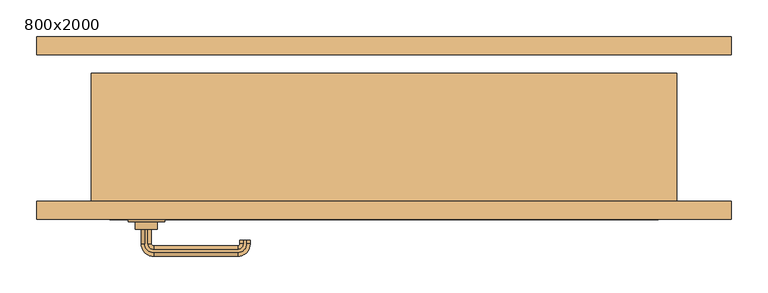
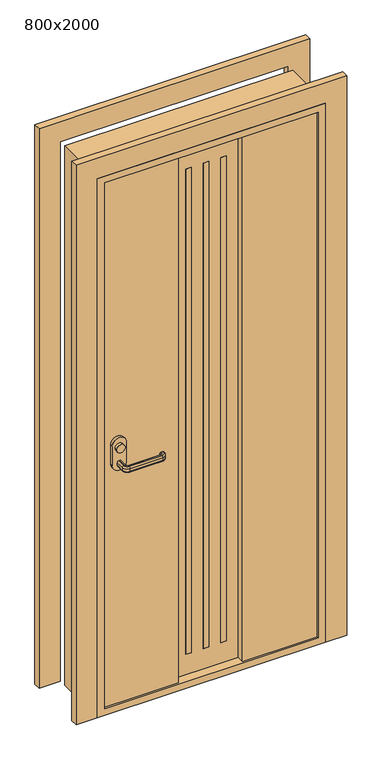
"""IFC4 building model written with IfcOpenShell, lengths in millimetres: door geometry, 片開き3 : 800x2000."""

from ifc_helpers import new_model, si_unit, point, frame, frame_2d, origin, place, context, project, spatial, polyline, circle_curve, ellipse_curve, trimmed, segment, composite_curve, outline, extrude, faceted_brep, source, transform, mapped, element, save
from ifc_brep_helpers import plane_surface, cylinder_surface, revolved_surface, advanced_brep


def door_800x2000_010bfebf(model_context):
    return source(origin(), model_context, "Body", "SolidModel", [
        extrude(outline(composite_curve([segment(trimmed(circle_curve(frame_2d((980.1793562, -325.0)), 15.0), [point((980.1793562, -310.0))], [point((980.1793562, -340.0))], False, "CARTESIAN"), True, "CONTINUOUS"), segment(trimmed(circle_curve(frame_2d((980.1793562, -325.0)), 15.0), [point((980.1793562, -340.0))], [point((980.1793562, -310.0))], False, "CARTESIAN"), True, "CONTINUOUS")], self_intersect=False)), frame((0.0, -138.0, 0.0), z_axis=(0.0, 1.0, 0.0), x_axis=(0.0, 0.0, 1.0)), (0.0, 0.0, 1.0), 10.0),
        extrude(outline(composite_curve([segment(trimmed(circle_curve(frame_2d((980.1793562, -325.0)), 15.0), [point((980.1793562, -340.0))], [point((980.1793562, -310.0))], False, "CARTESIAN"), True, "CONTINUOUS"), segment(trimmed(circle_curve(frame_2d((980.1793562, -325.0)), 15.0), [point((980.1793562, -310.0))], [point((980.1793562, -340.0))], False, "CARTESIAN"), True, "CONTINUOUS")], self_intersect=False)), frame((0.0, -73.0, 0.0), z_axis=(0.0, 1.0, 0.0), x_axis=(0.0, 0.0, 1.0)), (0.0, 0.0, 1.0), 10.0),
        advanced_brep(
        [(-327.0, -128.0, 930.0), (-323.0, -128.0, 930.0), (-318.0, -128.0, 925.0), (-318.0, -128.0, 915.0477623), (-323.0, -128.0, 910.0477623), (-327.0, -128.0, 910.0477623), (-332.0, -128.0, 915.0477623), (-332.0, -128.0, 925.0), (-332.0, -158.0, 925.0), (-327.0, -158.0, 930.0), (-332.0, -158.0, 915.0477623), (-327.0, -158.0, 910.0477623), (-323.0, -158.0, 910.0477623), (-315.0, -166.0, 910.0477623), (-200.0, -166.0, 910.0477623), (-192.0, -158.0, 910.0477623), (-192.0, -153.0, 910.0477623), (-188.0, -153.0, 910.0477623), (-188.0, -158.0, 910.0477623), (-200.0, -170.0, 910.0477623), (-315.0, -170.0, 910.0477623), (-318.0, -158.0, 915.0477623), (-318.0, -158.0, 925.0), (-323.0, -158.0, 930.0), (-315.0, -170.0, 930.0), (-200.0, -170.0, 930.0), (-188.0, -158.0, 930.0), (-188.0, -153.0, 930.0), (-192.0, -153.0, 930.0), (-192.0, -158.0, 930.0), (-200.0, -166.0, 930.0), (-315.0, -166.0, 930.0), (-315.0, -175.0, 925.0), (-315.0, -175.0, 915.0477623), (-315.0, -161.0, 915.0477623), (-315.0, -161.0, 925.0), (-200.0, -175.0, 925.0), (-200.0, -175.0, 915.0477623), (-200.0, -161.0, 915.0477623), (-200.0, -161.0, 925.0), (-183.0, -158.0, 925.0), (-183.0, -158.0, 915.0477623), (-197.0, -158.0, 915.0477623), (-197.0, -158.0, 925.0), (-183.0, -153.0, 925.0), (-183.0, -153.0, 915.0477623), (-197.0, -153.0, 915.0477623), (-197.0, -153.0, 925.0)],
        [
            (0, 1),
            (1, 2, circle_curve(frame((-323.0, -128.0, 925.0), z_axis=(0.0, 1.0, 0.0), x_axis=(-1.0, 0.0, 0.0)), 5.0)),
            (2, 3),
            (3, 4, circle_curve(frame((-323.0, -128.0, 915.0477623), z_axis=(0.0, 1.0, 0.0), x_axis=(-1.0, 0.0, 0.0)), 5.0)),
            (4, 5),
            (5, 6, circle_curve(frame((-327.0, -128.0, 915.0477623), z_axis=(0.0, 1.0, 0.0), x_axis=(-1.0, 0.0, 0.0)), 5.0)),
            (6, 7),
            (7, 0, circle_curve(frame((-327.0, -128.0, 925.0), z_axis=(0.0, 1.0, 0.0), x_axis=(-1.0, 0.0, 0.0)), 5.0)),
            (7, 8),
            (8, 9, circle_curve(frame((-327.0, -158.0, 925.0), z_axis=(0.0, 1.0, 0.0), x_axis=(-1.0, 0.0, 0.0)), 5.0)),
            (9, 0),
            (6, 10),
            (10, 8),
            (5, 11),
            (11, 10, circle_curve(frame((-327.0, -158.0, 915.0477623), z_axis=(0.0, 1.0, 0.0), x_axis=(-1.0, 0.0, 0.0)), 5.0)),
            (4, 12),
            (12, 13, circle_curve(frame((-315.0, -158.0, 910.0477623), z_axis=(0.0, 0.0, 1.0), x_axis=(-1.0, 0.0, 0.0)), 8.0)),
            (13, 14),
            (14, 15, circle_curve(frame((-200.0, -158.0, 910.0477623), z_axis=(0.0, 0.0, 1.0), x_axis=(0.0, -1.0, 0.0)), 8.0)),
            (15, 16),
            (16, 17),
            (17, 18),
            (18, 19, circle_curve(frame((-200.0, -158.0, 910.0477623), z_axis=(0.0, 0.0, -1.0), x_axis=(0.0, -1.0, 0.0)), 12.0)),
            (19, 20),
            (20, 11, circle_curve(frame((-315.0, -158.0, 910.0477623), z_axis=(0.0, 0.0, -1.0), x_axis=(-1.0, 0.0, 0.0)), 12.0)),
            (3, 21),
            (21, 12, circle_curve(frame((-323.0, -158.0, 915.0477623), z_axis=(0.0, 1.0, 0.0), x_axis=(-1.0, 0.0, 0.0)), 5.0)),
            (2, 22),
            (22, 21),
            (1, 23),
            (23, 22, circle_curve(frame((-323.0, -158.0, 925.0), z_axis=(0.0, 1.0, 0.0), x_axis=(-1.0, 0.0, 0.0)), 5.0)),
            (9, 24, circle_curve(frame((-315.0, -158.0, 930.0), z_axis=(0.0, 0.0, 1.0), x_axis=(-1.0, 0.0, 0.0)), 12.0)),
            (24, 25),
            (25, 26, circle_curve(frame((-200.0, -158.0, 930.0), z_axis=(0.0, 0.0, 1.0), x_axis=(0.0, -1.0, 0.0)), 12.0)),
            (26, 27),
            (27, 28),
            (28, 29),
            (29, 30, circle_curve(frame((-200.0, -158.0, 930.0), z_axis=(0.0, 0.0, -1.0), x_axis=(0.0, -1.0, 0.0)), 8.0)),
            (30, 31),
            (31, 23, circle_curve(frame((-315.0, -158.0, 930.0), z_axis=(0.0, 0.0, -1.0), x_axis=(-1.0, 0.0, 0.0)), 8.0)),
            (32, 24, circle_curve(frame((-315.0, -170.0, 925.0), z_axis=(-1.0, 0.0, 0.0), x_axis=(0.0, -1.0, 0.0)), 5.0)),
            (8, 32, circle_curve(frame((-315.0, -158.0, 925.0), z_axis=(0.0, 0.0, 1.0), x_axis=(-1.0, 0.0, 0.0)), 17.0)),
            (33, 32),
            (10, 33, circle_curve(frame((-315.0, -158.0, 915.0477623), z_axis=(0.0, 0.0, 1.0), x_axis=(-1.0, 0.0, 0.0)), 17.0)),
            (20, 33, circle_curve(frame((-315.0, -170.0, 915.0477623), z_axis=(-1.0, 0.0, 0.0), x_axis=(0.0, -1.0, 0.0)), 5.0)),
            (34, 13, circle_curve(frame((-315.0, -166.0, 915.0477623), z_axis=(-1.0, 0.0, 0.0), x_axis=(0.0, -1.0, 0.0)), 5.0)),
            (21, 34, circle_curve(frame((-315.0, -158.0, 915.0477623), z_axis=(0.0, 0.0, 1.0), x_axis=(-1.0, 0.0, 0.0)), 3.0)),
            (35, 34),
            (22, 35, circle_curve(frame((-315.0, -158.0, 925.0), z_axis=(0.0, 0.0, 1.0), x_axis=(-1.0, 0.0, 0.0)), 3.0)),
            (31, 35, circle_curve(frame((-315.0, -166.0, 925.0), z_axis=(-1.0, 0.0, 0.0), x_axis=(0.0, -1.0, 0.0)), 5.0)),
            (32, 36),
            (36, 25, circle_curve(frame((-200.0, -170.0, 925.0), z_axis=(-1.0, 0.0, 0.0), x_axis=(0.0, -1.0, 0.0)), 5.0)),
            (33, 37),
            (37, 36),
            (19, 37, circle_curve(frame((-200.0, -170.0, 915.0477623), z_axis=(-1.0, 0.0, 0.0), x_axis=(0.0, -1.0, 0.0)), 5.0)),
            (34, 38),
            (38, 14, circle_curve(frame((-200.0, -166.0, 915.0477623), z_axis=(-1.0, 0.0, 0.0), x_axis=(0.0, -1.0, 0.0)), 5.0)),
            (35, 39),
            (39, 38),
            (30, 39, circle_curve(frame((-200.0, -166.0, 925.0), z_axis=(-1.0, 0.0, 0.0), x_axis=(0.0, -1.0, 0.0)), 5.0)),
            (40, 26, circle_curve(frame((-188.0, -158.0, 925.0), z_axis=(0.0, -1.0, 0.0), x_axis=(1.0, 0.0, 0.0)), 5.0)),
            (36, 40, circle_curve(frame((-200.0, -158.0, 925.0), z_axis=(0.0, 0.0, 1.0), x_axis=(0.0, -1.0, 0.0)), 17.0)),
            (41, 40),
            (37, 41, circle_curve(frame((-200.0, -158.0, 915.0477623), z_axis=(0.0, 0.0, 1.0), x_axis=(0.0, -1.0, 0.0)), 17.0)),
            (18, 41, circle_curve(frame((-188.0, -158.0, 915.0477623), z_axis=(0.0, -1.0, 0.0), x_axis=(1.0, 0.0, 0.0)), 5.0)),
            (42, 15, circle_curve(frame((-192.0, -158.0, 915.0477623), z_axis=(0.0, -1.0, 0.0), x_axis=(1.0, 0.0, 0.0)), 5.0)),
            (38, 42, circle_curve(frame((-200.0, -158.0, 915.0477623), z_axis=(0.0, 0.0, 1.0), x_axis=(0.0, -1.0, 0.0)), 3.0)),
            (43, 42),
            (39, 43, circle_curve(frame((-200.0, -158.0, 925.0), z_axis=(0.0, 0.0, 1.0), x_axis=(0.0, -1.0, 0.0)), 3.0)),
            (29, 43, circle_curve(frame((-192.0, -158.0, 925.0), z_axis=(0.0, -1.0, 0.0), x_axis=(1.0, 0.0, 0.0)), 5.0)),
            (27, 44, circle_curve(frame((-188.0, -153.0, 925.0), z_axis=(0.0, 1.0, 0.0), x_axis=(1.0, 0.0, 0.0)), 5.0)),
            (44, 45),
            (45, 17, circle_curve(frame((-188.0, -153.0, 915.0477623), z_axis=(0.0, 1.0, 0.0), x_axis=(1.0, 0.0, 0.0)), 5.0)),
            (16, 46, circle_curve(frame((-192.0, -153.0, 915.0477623), z_axis=(0.0, 1.0, 0.0), x_axis=(1.0, 0.0, 0.0)), 5.0)),
            (46, 47),
            (47, 28, circle_curve(frame((-192.0, -153.0, 925.0), z_axis=(0.0, 1.0, 0.0), x_axis=(1.0, 0.0, 0.0)), 5.0)),
            (40, 44),
            (41, 45),
            (42, 46),
            (43, 47),
        ],
        [
            plane_surface(frame((-335.198039, -128.0, 920.0), z_axis=(0.0, 1.0, 0.0), x_axis=(0.0, 0.0, 1.0))),
            cylinder_surface(frame((-327.0, -128.0, 925.0), z_axis=(0.0, 1.0, 0.0), x_axis=(-1.0, 0.0, 0.0)), 5.0),
            plane_surface(frame((-332.0, -128.0, 925.0), z_axis=(-1.0, 0.0, 0.0), x_axis=(0.0, -1.0, 0.0))),
            cylinder_surface(frame((-327.0, -128.0, 915.0477623), z_axis=(0.0, 1.0, 0.0), x_axis=(-1.0, 0.0, 0.0)), 5.0),
            plane_surface(frame((-327.0, -128.0, 910.0477623), z_axis=(0.0, 0.0, -1.0), x_axis=(0.0, -1.0, 0.0))),
            cylinder_surface(frame((-323.0, -128.0, 915.0477623), z_axis=(0.0, 1.0, 0.0), x_axis=(-1.0, 0.0, 0.0)), 5.0),
            plane_surface(frame((-318.0, -128.0, 915.0477623), z_axis=(1.0, 0.0, 0.0), x_axis=(0.0, -1.0, 0.0))),
            cylinder_surface(frame((-323.0, -128.0, 925.0), z_axis=(0.0, 1.0, 0.0), x_axis=(-1.0, 0.0, 0.0)), 5.0),
            plane_surface(frame((-323.0, -128.0, 930.0), z_axis=(0.0, 0.0, 1.0), x_axis=(0.0, -1.0, 0.0))),
            revolved_surface(trimmed(ellipse_curve(frame((-327.0, -158.0, 925.0), z_axis=(0.0, -1.0, 0.0), x_axis=(-1.0, 0.0, 0.0)), 5.0, 5.0), [point((-327.0, -158.0, 930.0))], [point((-332.0, -158.0, 925.0))], True, "CARTESIAN"), (-315.0, -158.0, 920.0), (0.0, 0.0, -1.0)),
            cylinder_surface(frame((-315.0, -158.0, 920.0), z_axis=(0.0, 0.0, -1.0), x_axis=(-1.0, 0.0, 0.0)), 17.0),
            revolved_surface(trimmed(ellipse_curve(frame((-327.0, -158.0, 915.0477623), z_axis=(0.0, -1.0, 0.0), x_axis=(-1.0, 0.0, 0.0)), 5.0, 5.0), [point((-332.0, -158.0, 915.0477623))], [point((-327.0, -158.0, 910.0477623))], True, "CARTESIAN"), (-315.0, -158.0, 920.0), (0.0, 0.0, -1.0)),
            revolved_surface(trimmed(ellipse_curve(frame((-323.0, -158.0, 915.0477623), z_axis=(0.0, -1.0, 0.0), x_axis=(-1.0, 0.0, 0.0)), 5.0, 5.0), [point((-323.0, -158.0, 910.0477623))], [point((-318.0, -158.0, 915.0477623))], True, "CARTESIAN"), (-315.0, -158.0, 920.0), (0.0, 0.0, -1.0)),
            revolved_surface(polyline([(-318.0, -158.0, 915.0477623), (-318.0, -158.0, 925.0)]), (-315.0, -158.0, 920.0), (0.0, 0.0, -1.0)),
            revolved_surface(trimmed(ellipse_curve(frame((-323.0, -158.0, 925.0), z_axis=(0.0, -1.0, 0.0), x_axis=(-1.0, 0.0, 0.0)), 5.0, 5.0), [point((-318.0, -158.0, 925.0))], [point((-323.0, -158.0, 930.0))], True, "CARTESIAN"), (-315.0, -158.0, 920.0), (0.0, 0.0, -1.0)),
            cylinder_surface(frame((-315.0, -170.0, 925.0), z_axis=(-1.0, 0.0, 0.0), x_axis=(0.0, -1.0, 0.0)), 5.0),
            plane_surface(frame((-315.0, -175.0, 925.0), z_axis=(0.0, -1.0, 0.0), x_axis=(1.0, 0.0, 0.0))),
            cylinder_surface(frame((-315.0, -170.0, 915.0477623), z_axis=(-1.0, 0.0, 0.0), x_axis=(0.0, -1.0, 0.0)), 5.0),
            cylinder_surface(frame((-315.0, -166.0, 915.0477623), z_axis=(-1.0, 0.0, 0.0), x_axis=(0.0, -1.0, 0.0)), 5.0),
            plane_surface(frame((-315.0, -161.0, 915.0477623), z_axis=(0.0, 1.0, 0.0), x_axis=(1.0, 0.0, 0.0))),
            cylinder_surface(frame((-315.0, -166.0, 925.0), z_axis=(-1.0, 0.0, 0.0), x_axis=(0.0, -1.0, 0.0)), 5.0),
            revolved_surface(trimmed(ellipse_curve(frame((-200.0, -170.0, 925.0), z_axis=(1.0, 0.0, 0.0), x_axis=(0.0, -1.0, 0.0)), 5.0, 5.0), [point((-200.0, -170.0, 930.0))], [point((-200.0, -175.0, 925.0))], True, "CARTESIAN"), (-200.0, -158.0, 920.0), (0.0, 0.0, -1.0)),
            cylinder_surface(frame((-200.0, -158.0, 920.0), z_axis=(0.0, 0.0, -1.0), x_axis=(0.0, -1.0, 0.0)), 17.0),
            revolved_surface(trimmed(ellipse_curve(frame((-200.0, -170.0, 915.0477623), z_axis=(1.0, 0.0, 0.0), x_axis=(0.0, -1.0, 0.0)), 5.0, 5.0), [point((-200.0, -175.0, 915.0477623))], [point((-200.0, -170.0, 910.0477623))], True, "CARTESIAN"), (-200.0, -158.0, 920.0), (0.0, 0.0, -1.0)),
            revolved_surface(trimmed(ellipse_curve(frame((-200.0, -166.0, 915.0477623), z_axis=(1.0, 0.0, 0.0), x_axis=(0.0, -1.0, 0.0)), 5.0, 5.0), [point((-200.0, -166.0, 910.0477623))], [point((-200.0, -161.0, 915.0477623))], True, "CARTESIAN"), (-200.0, -158.0, 920.0), (0.0, 0.0, -1.0)),
            revolved_surface(polyline([(-200.0, -161.0, 915.0477623), (-200.0, -161.0, 925.0)]), (-200.0, -158.0, 920.0), (0.0, 0.0, -1.0)),
            revolved_surface(trimmed(ellipse_curve(frame((-200.0, -166.0, 925.0), z_axis=(1.0, 0.0, 0.0), x_axis=(0.0, -1.0, 0.0)), 5.0, 5.0), [point((-200.0, -161.0, 925.0))], [point((-200.0, -166.0, 930.0))], True, "CARTESIAN"), (-200.0, -158.0, 920.0), (0.0, 0.0, -1.0)),
            plane_surface(frame((-200.198039, -153.0, 920.0), z_axis=(0.0, 1.0, 0.0), x_axis=(0.0, 0.0, -1.0))),
            cylinder_surface(frame((-188.0, -158.0, 925.0), z_axis=(0.0, -1.0, 0.0), x_axis=(1.0, 0.0, 0.0)), 5.0),
            plane_surface(frame((-183.0, -158.0, 925.0), z_axis=(1.0, 0.0, 0.0), x_axis=(0.0, 1.0, 0.0))),
            cylinder_surface(frame((-188.0, -158.0, 915.0477623), z_axis=(0.0, -1.0, 0.0), x_axis=(1.0, 0.0, 0.0)), 5.0),
            cylinder_surface(frame((-192.0, -158.0, 915.0477623), z_axis=(0.0, -1.0, 0.0), x_axis=(1.0, 0.0, 0.0)), 5.0),
            plane_surface(frame((-197.0, -158.0, 915.0477623), z_axis=(-1.0, 0.0, 0.0), x_axis=(0.0, 1.0, 0.0))),
            cylinder_surface(frame((-192.0, -158.0, 925.0), z_axis=(0.0, -1.0, 0.0), x_axis=(1.0, 0.0, 0.0)), 5.0),
        ],
        [
            (0, [[1, 2, 3, 4, 5, 6, 7, 8]]),
            (1, [[9, 10, 11, -8]]),
            (2, [[12, 13, -9, -7]]),
            (3, [[14, 15, -12, -6]]),
            (4, [[16, 17, 18, 19, 20, 21, 22, 23, 24, 25, -14, -5]]),
            (5, [[26, 27, -16, -4]]),
            (6, [[28, 29, -26, -3]]),
            (7, [[30, 31, -28, -2]]),
            (8, [[-11, 32, 33, 34, 35, 36, 37, 38, 39, 40, -30, -1]]),
            (9, [[41, -32, -10, 42]]),
            (10, [[43, -42, -13, 44]]),
            (11, [[45, -44, -15, -25]]),
            (12, [[46, -17, -27, 47]]),
            (13, [[48, -47, -29, 49]]),
            (14, [[50, -49, -31, -40]]),
            (15, [[51, 52, -33, -41]]),
            (16, [[53, 54, -51, -43]]),
            (17, [[-24, 55, -53, -45]]),
            (18, [[56, 57, -18, -46]]),
            (19, [[58, 59, -56, -48]]),
            (20, [[-39, 60, -58, -50]]),
            (21, [[61, -34, -52, 62]]),
            (22, [[63, -62, -54, 64]]),
            (23, [[65, -64, -55, -23]]),
            (24, [[66, -19, -57, 67]]),
            (25, [[68, -67, -59, 69]]),
            (26, [[70, -69, -60, -38]]),
            (27, [[71, 72, 73, -21, 74, 75, 76, -36]]),
            (28, [[77, -71, -35, -61]]),
            (29, [[78, -72, -77, -63]]),
            (30, [[-22, -73, -78, -65]]),
            (31, [[79, -74, -20, -66]]),
            (32, [[80, -75, -79, -68]]),
            (33, [[-37, -76, -80, -70]]),
        ],
    ),
        advanced_brep(
        [(-323.0, -73.0, 910.0), (-318.0, -73.0, 915.0), (-318.0, -73.0, 925.0), (-323.0, -73.0, 930.0), (-327.0, -73.0, 930.0), (-332.0, -73.0, 925.0), (-332.0, -73.0, 915.0), (-327.0, -73.0, 910.0), (-327.0, -43.0, 910.0), (-315.0, -31.0, 910.0), (-200.0, -31.0, 910.0), (-188.0, -43.0, 910.0), (-188.0, -48.0, 910.0), (-192.0, -48.0, 910.0), (-192.0, -43.0, 910.0), (-200.0, -35.0, 910.0), (-315.0, -35.0, 910.0), (-323.0, -43.0, 910.0), (-332.0, -43.0, 915.0), (-332.0, -43.0, 925.0), (-327.0, -43.0, 930.0), (-323.0, -43.0, 930.0), (-315.0, -35.0, 930.0), (-200.0, -35.0, 930.0), (-192.0, -43.0, 930.0), (-192.0, -48.0, 930.0), (-188.0, -48.0, 930.0), (-188.0, -43.0, 930.0), (-200.0, -31.0, 930.0), (-315.0, -31.0, 930.0), (-318.0, -43.0, 925.0), (-318.0, -43.0, 915.0), (-315.0, -26.0, 915.0), (-315.0, -26.0, 925.0), (-315.0, -40.0, 925.0), (-315.0, -40.0, 915.0), (-200.0, -26.0, 915.0), (-200.0, -26.0, 925.0), (-200.0, -40.0, 925.0), (-200.0, -40.0, 915.0), (-183.0, -43.0, 915.0), (-183.0, -43.0, 925.0), (-197.0, -43.0, 925.0), (-197.0, -43.0, 915.0), (-183.0, -48.0, 915.0), (-183.0, -48.0, 925.0), (-197.0, -48.0, 925.0), (-197.0, -48.0, 915.0)],
        [
            (0, 1, circle_curve(frame((-323.0, -73.0, 915.0), z_axis=(0.0, -1.0, 0.0), x_axis=(1.0, 0.0, 0.0)), 5.0)),
            (1, 2),
            (2, 3, circle_curve(frame((-323.0, -73.0, 925.0), z_axis=(0.0, -1.0, 0.0), x_axis=(1.0, 0.0, 0.0)), 5.0)),
            (3, 4),
            (4, 5, circle_curve(frame((-327.0, -73.0, 925.0), z_axis=(0.0, -1.0, 0.0), x_axis=(1.0, 0.0, 0.0)), 5.0)),
            (5, 6),
            (6, 7, circle_curve(frame((-327.0, -73.0, 915.0), z_axis=(0.0, -1.0, 0.0), x_axis=(1.0, 0.0, 0.0)), 5.0)),
            (7, 0),
            (7, 8),
            (8, 9, circle_curve(frame((-315.0, -43.0, 910.0), z_axis=(0.0, 0.0, -1.0), x_axis=(-1.0, 0.0, 0.0)), 12.0)),
            (9, 10),
            (10, 11, circle_curve(frame((-200.0, -43.0, 910.0), z_axis=(0.0, 0.0, -1.0), x_axis=(0.0, 1.0, 0.0)), 12.0)),
            (11, 12),
            (12, 13),
            (13, 14),
            (14, 15, circle_curve(frame((-200.0, -43.0, 910.0), z_axis=(0.0, 0.0, 1.0), x_axis=(0.0, 1.0, 0.0)), 8.0)),
            (15, 16),
            (16, 17, circle_curve(frame((-315.0, -43.0, 910.0), z_axis=(0.0, 0.0, 1.0), x_axis=(-1.0, 0.0, 0.0)), 8.0)),
            (17, 0),
            (6, 18),
            (18, 8, circle_curve(frame((-327.0, -43.0, 915.0), z_axis=(0.0, -1.0, 0.0), x_axis=(1.0, 0.0, 0.0)), 5.0)),
            (5, 19),
            (19, 18),
            (4, 20),
            (20, 19, circle_curve(frame((-327.0, -43.0, 925.0), z_axis=(0.0, -1.0, 0.0), x_axis=(1.0, 0.0, 0.0)), 5.0)),
            (3, 21),
            (21, 22, circle_curve(frame((-315.0, -43.0, 930.0), z_axis=(0.0, 0.0, -1.0), x_axis=(-1.0, 0.0, 0.0)), 8.0)),
            (22, 23),
            (23, 24, circle_curve(frame((-200.0, -43.0, 930.0), z_axis=(0.0, 0.0, -1.0), x_axis=(0.0, 1.0, 0.0)), 8.0)),
            (24, 25),
            (25, 26),
            (26, 27),
            (27, 28, circle_curve(frame((-200.0, -43.0, 930.0), z_axis=(0.0, 0.0, 1.0), x_axis=(0.0, 1.0, 0.0)), 12.0)),
            (28, 29),
            (29, 20, circle_curve(frame((-315.0, -43.0, 930.0), z_axis=(0.0, 0.0, 1.0), x_axis=(-1.0, 0.0, 0.0)), 12.0)),
            (2, 30),
            (30, 21, circle_curve(frame((-323.0, -43.0, 925.0), z_axis=(0.0, -1.0, 0.0), x_axis=(1.0, 0.0, 0.0)), 5.0)),
            (1, 31),
            (31, 30),
            (17, 31, circle_curve(frame((-323.0, -43.0, 915.0), z_axis=(0.0, -1.0, 0.0), x_axis=(1.0, 0.0, 0.0)), 5.0)),
            (32, 9, circle_curve(frame((-315.0, -31.0, 915.0), z_axis=(-1.0, 0.0, 0.0), x_axis=(0.0, -1.0, 0.0)), 5.0)),
            (18, 32, circle_curve(frame((-315.0, -43.0, 915.0), z_axis=(0.0, 0.0, -1.0), x_axis=(-1.0, 0.0, 0.0)), 17.0)),
            (33, 32),
            (19, 33, circle_curve(frame((-315.0, -43.0, 925.0), z_axis=(0.0, 0.0, -1.0), x_axis=(-1.0, 0.0, 0.0)), 17.0)),
            (29, 33, circle_curve(frame((-315.0, -31.0, 925.0), z_axis=(-1.0, 0.0, 0.0), x_axis=(0.0, -1.0, 0.0)), 5.0)),
            (34, 22, circle_curve(frame((-315.0, -35.0, 925.0), z_axis=(-1.0, 0.0, 0.0), x_axis=(0.0, -1.0, 0.0)), 5.0)),
            (30, 34, circle_curve(frame((-315.0, -43.0, 925.0), z_axis=(0.0, 0.0, -1.0), x_axis=(-1.0, 0.0, 0.0)), 3.0)),
            (35, 34),
            (31, 35, circle_curve(frame((-315.0, -43.0, 915.0), z_axis=(0.0, 0.0, -1.0), x_axis=(-1.0, 0.0, 0.0)), 3.0)),
            (16, 35, circle_curve(frame((-315.0, -35.0, 915.0), z_axis=(-1.0, 0.0, 0.0), x_axis=(0.0, -1.0, 0.0)), 5.0)),
            (32, 36),
            (36, 10, circle_curve(frame((-200.0, -31.0, 915.0), z_axis=(-1.0, 0.0, 0.0), x_axis=(0.0, -1.0, 0.0)), 5.0)),
            (33, 37),
            (37, 36),
            (28, 37, circle_curve(frame((-200.0, -31.0, 925.0), z_axis=(-1.0, 0.0, 0.0), x_axis=(0.0, -1.0, 0.0)), 5.0)),
            (34, 38),
            (38, 23, circle_curve(frame((-200.0, -35.0, 925.0), z_axis=(-1.0, 0.0, 0.0), x_axis=(0.0, -1.0, 0.0)), 5.0)),
            (35, 39),
            (39, 38),
            (15, 39, circle_curve(frame((-200.0, -35.0, 915.0), z_axis=(-1.0, 0.0, 0.0), x_axis=(0.0, -1.0, 0.0)), 5.0)),
            (40, 11, circle_curve(frame((-188.0, -43.0, 915.0), z_axis=(0.0, 1.0, 0.0), x_axis=(-1.0, 0.0, 0.0)), 5.0)),
            (36, 40, circle_curve(frame((-200.0, -43.0, 915.0), z_axis=(0.0, 0.0, -1.0), x_axis=(0.0, 1.0, 0.0)), 17.0)),
            (41, 40),
            (37, 41, circle_curve(frame((-200.0, -43.0, 925.0), z_axis=(0.0, 0.0, -1.0), x_axis=(0.0, 1.0, 0.0)), 17.0)),
            (27, 41, circle_curve(frame((-188.0, -43.0, 925.0), z_axis=(0.0, 1.0, 0.0), x_axis=(-1.0, 0.0, 0.0)), 5.0)),
            (42, 24, circle_curve(frame((-192.0, -43.0, 925.0), z_axis=(0.0, 1.0, 0.0), x_axis=(-1.0, 0.0, 0.0)), 5.0)),
            (38, 42, circle_curve(frame((-200.0, -43.0, 925.0), z_axis=(0.0, 0.0, -1.0), x_axis=(0.0, 1.0, 0.0)), 3.0)),
            (43, 42),
            (39, 43, circle_curve(frame((-200.0, -43.0, 915.0), z_axis=(0.0, 0.0, -1.0), x_axis=(0.0, 1.0, 0.0)), 3.0)),
            (14, 43, circle_curve(frame((-192.0, -43.0, 915.0), z_axis=(0.0, 1.0, 0.0), x_axis=(-1.0, 0.0, 0.0)), 5.0)),
            (12, 44, circle_curve(frame((-188.0, -48.0, 915.0), z_axis=(0.0, -1.0, 0.0), x_axis=(-1.0, 0.0, 0.0)), 5.0)),
            (44, 45),
            (45, 26, circle_curve(frame((-188.0, -48.0, 925.0), z_axis=(0.0, -1.0, 0.0), x_axis=(-1.0, 0.0, 0.0)), 5.0)),
            (25, 46, circle_curve(frame((-192.0, -48.0, 925.0), z_axis=(0.0, -1.0, 0.0), x_axis=(-1.0, 0.0, 0.0)), 5.0)),
            (46, 47),
            (47, 13, circle_curve(frame((-192.0, -48.0, 915.0), z_axis=(0.0, -1.0, 0.0), x_axis=(-1.0, 0.0, 0.0)), 5.0)),
            (40, 44),
            (41, 45),
            (42, 46),
            (43, 47),
        ],
        [
            plane_surface(frame((-335.198039, -73.0, 920.0), z_axis=(0.0, -1.0, 0.0), x_axis=(0.0, 0.0, -1.0))),
            plane_surface(frame((-323.0, -73.0, 910.0), z_axis=(0.0, 0.0, -1.0), x_axis=(0.0, 1.0, 0.0))),
            cylinder_surface(frame((-327.0, -73.0, 915.0), z_axis=(0.0, -1.0, 0.0), x_axis=(1.0, 0.0, 0.0)), 5.0),
            plane_surface(frame((-332.0, -73.0, 915.0), z_axis=(-1.0, 0.0, 0.0), x_axis=(0.0, 1.0, 0.0))),
            cylinder_surface(frame((-327.0, -73.0, 925.0), z_axis=(0.0, -1.0, 0.0), x_axis=(1.0, 0.0, 0.0)), 5.0),
            plane_surface(frame((-327.0, -73.0, 930.0), z_axis=(0.0, 0.0, 1.0), x_axis=(0.0, 1.0, 0.0))),
            cylinder_surface(frame((-323.0, -73.0, 925.0), z_axis=(0.0, -1.0, 0.0), x_axis=(1.0, 0.0, 0.0)), 5.0),
            plane_surface(frame((-318.0, -73.0, 925.0), z_axis=(1.0, 0.0, 0.0), x_axis=(0.0, 1.0, 0.0))),
            cylinder_surface(frame((-323.0, -73.0, 915.0), z_axis=(0.0, -1.0, 0.0), x_axis=(1.0, 0.0, 0.0)), 5.0),
            revolved_surface(trimmed(ellipse_curve(frame((-327.0, -43.0, 915.0), z_axis=(0.0, 1.0, 0.0), x_axis=(1.0, 0.0, 0.0)), 5.0, 5.0), [point((-327.0, -43.0, 910.0))], [point((-332.0, -43.0, 915.0))], True, "CARTESIAN"), (-315.0, -43.0, 920.0), (0.0, 0.0, 1.0)),
            cylinder_surface(frame((-315.0, -43.0, 920.0), z_axis=(0.0, 0.0, 1.0), x_axis=(-1.0, 0.0, 0.0)), 17.0),
            revolved_surface(trimmed(ellipse_curve(frame((-327.0, -43.0, 925.0), z_axis=(0.0, 1.0, 0.0), x_axis=(1.0, 0.0, 0.0)), 5.0, 5.0), [point((-332.0, -43.0, 925.0))], [point((-327.0, -43.0, 930.0))], True, "CARTESIAN"), (-315.0, -43.0, 920.0), (0.0, 0.0, 1.0)),
            revolved_surface(trimmed(ellipse_curve(frame((-323.0, -43.0, 925.0), z_axis=(0.0, 1.0, 0.0), x_axis=(1.0, 0.0, 0.0)), 5.0, 5.0), [point((-323.0, -43.0, 930.0))], [point((-318.0, -43.0, 925.0))], True, "CARTESIAN"), (-315.0, -43.0, 920.0), (0.0, 0.0, 1.0)),
            revolved_surface(polyline([(-318.0, -43.0, 925.0), (-318.0, -43.0, 915.0)]), (-315.0, -43.0, 920.0), (0.0, 0.0, 1.0)),
            revolved_surface(trimmed(ellipse_curve(frame((-323.0, -43.0, 915.0), z_axis=(0.0, 1.0, 0.0), x_axis=(1.0, 0.0, 0.0)), 5.0, 5.0), [point((-318.0, -43.0, 915.0))], [point((-323.0, -43.0, 910.0))], True, "CARTESIAN"), (-315.0, -43.0, 920.0), (0.0, 0.0, 1.0)),
            cylinder_surface(frame((-315.0, -31.0, 915.0), z_axis=(-1.0, 0.0, 0.0), x_axis=(0.0, -1.0, 0.0)), 5.0),
            plane_surface(frame((-315.0, -26.0, 915.0), z_axis=(0.0, 1.0, 0.0), x_axis=(1.0, 0.0, 0.0))),
            cylinder_surface(frame((-315.0, -31.0, 925.0), z_axis=(-1.0, 0.0, 0.0), x_axis=(0.0, -1.0, 0.0)), 5.0),
            cylinder_surface(frame((-315.0, -35.0, 925.0), z_axis=(-1.0, 0.0, 0.0), x_axis=(0.0, -1.0, 0.0)), 5.0),
            plane_surface(frame((-315.0, -40.0, 925.0), z_axis=(0.0, -1.0, 0.0), x_axis=(1.0, 0.0, 0.0))),
            cylinder_surface(frame((-315.0, -35.0, 915.0), z_axis=(-1.0, 0.0, 0.0), x_axis=(0.0, -1.0, 0.0)), 5.0),
            revolved_surface(trimmed(ellipse_curve(frame((-200.0, -31.0, 915.0), z_axis=(1.0, 0.0, 0.0), x_axis=(0.0, -1.0, 0.0)), 5.0, 5.0), [point((-200.0, -31.0, 910.0))], [point((-200.0, -26.0, 915.0))], True, "CARTESIAN"), (-200.0, -43.0, 920.0), (0.0, 0.0, 1.0)),
            cylinder_surface(frame((-200.0, -43.0, 920.0), z_axis=(0.0, 0.0, 1.0), x_axis=(0.0, 1.0, 0.0)), 17.0),
            revolved_surface(trimmed(ellipse_curve(frame((-200.0, -31.0, 925.0), z_axis=(1.0, 0.0, 0.0), x_axis=(0.0, -1.0, 0.0)), 5.0, 5.0), [point((-200.0, -26.0, 925.0))], [point((-200.0, -31.0, 930.0))], True, "CARTESIAN"), (-200.0, -43.0, 920.0), (0.0, 0.0, 1.0)),
            revolved_surface(trimmed(ellipse_curve(frame((-200.0, -35.0, 925.0), z_axis=(1.0, 0.0, 0.0), x_axis=(0.0, -1.0, 0.0)), 5.0, 5.0), [point((-200.0, -35.0, 930.0))], [point((-200.0, -40.0, 925.0))], True, "CARTESIAN"), (-200.0, -43.0, 920.0), (0.0, 0.0, 1.0)),
            revolved_surface(polyline([(-200.0, -40.0, 925.0), (-200.0, -40.0, 915.0)]), (-200.0, -43.0, 920.0), (0.0, 0.0, 1.0)),
            revolved_surface(trimmed(ellipse_curve(frame((-200.0, -35.0, 915.0), z_axis=(1.0, 0.0, 0.0), x_axis=(0.0, -1.0, 0.0)), 5.0, 5.0), [point((-200.0, -40.0, 915.0))], [point((-200.0, -35.0, 910.0))], True, "CARTESIAN"), (-200.0, -43.0, 920.0), (0.0, 0.0, 1.0)),
            plane_surface(frame((-200.198039, -48.0, 920.0), z_axis=(0.0, -1.0, 0.0), x_axis=(0.0, 0.0, 1.0))),
            cylinder_surface(frame((-188.0, -43.0, 915.0), z_axis=(0.0, 1.0, 0.0), x_axis=(-1.0, 0.0, 0.0)), 5.0),
            plane_surface(frame((-183.0, -43.0, 915.0), z_axis=(1.0, 0.0, 0.0), x_axis=(0.0, -1.0, 0.0))),
            cylinder_surface(frame((-188.0, -43.0, 925.0), z_axis=(0.0, 1.0, 0.0), x_axis=(-1.0, 0.0, 0.0)), 5.0),
            cylinder_surface(frame((-192.0, -43.0, 925.0), z_axis=(0.0, 1.0, 0.0), x_axis=(-1.0, 0.0, 0.0)), 5.0),
            plane_surface(frame((-197.0, -43.0, 925.0), z_axis=(-1.0, 0.0, 0.0), x_axis=(0.0, -1.0, 0.0))),
            cylinder_surface(frame((-192.0, -43.0, 915.0), z_axis=(0.0, 1.0, 0.0), x_axis=(-1.0, 0.0, 0.0)), 5.0),
        ],
        [
            (0, [[1, 2, 3, 4, 5, 6, 7, 8]]),
            (1, [[9, 10, 11, 12, 13, 14, 15, 16, 17, 18, 19, -8]]),
            (2, [[20, 21, -9, -7]]),
            (3, [[22, 23, -20, -6]]),
            (4, [[24, 25, -22, -5]]),
            (5, [[26, 27, 28, 29, 30, 31, 32, 33, 34, 35, -24, -4]]),
            (6, [[36, 37, -26, -3]]),
            (7, [[38, 39, -36, -2]]),
            (8, [[-19, 40, -38, -1]]),
            (9, [[41, -10, -21, 42]]),
            (10, [[43, -42, -23, 44]]),
            (11, [[45, -44, -25, -35]]),
            (12, [[46, -27, -37, 47]]),
            (13, [[48, -47, -39, 49]]),
            (14, [[50, -49, -40, -18]]),
            (15, [[51, 52, -11, -41]]),
            (16, [[53, 54, -51, -43]]),
            (17, [[-34, 55, -53, -45]]),
            (18, [[56, 57, -28, -46]]),
            (19, [[58, 59, -56, -48]]),
            (20, [[-17, 60, -58, -50]]),
            (21, [[61, -12, -52, 62]]),
            (22, [[63, -62, -54, 64]]),
            (23, [[65, -64, -55, -33]]),
            (24, [[66, -29, -57, 67]]),
            (25, [[68, -67, -59, 69]]),
            (26, [[70, -69, -60, -16]]),
            (27, [[-14, 71, 72, 73, -31, 74, 75, 76]]),
            (28, [[77, -71, -13, -61]]),
            (29, [[78, -72, -77, -63]]),
            (30, [[-32, -73, -78, -65]]),
            (31, [[79, -74, -30, -66]]),
            (32, [[80, -75, -79, -68]]),
            (33, [[-15, -76, -80, -70]]),
        ],
    ),
        extrude(outline(composite_curve([segment(polyline([(990.1793562, -350.0), (920.0, -350.0)]), True, "CONTINUOUS"), segment(trimmed(circle_curve(frame_2d((920.0, -325.0)), 25.0), [point((920.0, -350.0))], [point((920.0, -300.0))], False, "CARTESIAN"), True, "CONTINUOUS"), segment(polyline([(920.0, -300.0), (990.1793562, -300.0)]), True, "CONTINUOUS"), segment(trimmed(circle_curve(frame_2d((990.1793562, -325.0)), 25.0), [point((990.1793562, -300.0))], [point((990.1793562, -350.0))], False, "CARTESIAN"), True, "CONTINUOUS")], self_intersect=False)), frame((0.0, -128.0, 0.0), z_axis=(0.0, 1.0, 0.0), x_axis=(0.0, 0.0, 1.0)), (0.0, 0.0, 1.0), 10.0),
        extrude(outline(composite_curve([segment(trimmed(circle_curve(frame_2d((990.1793562, -325.0)), 25.0), [point((990.1793562, -300.0))], [point((990.1793562, -350.0))], False, "CARTESIAN"), True, "CONTINUOUS"), segment(polyline([(990.1793562, -350.0), (920.0, -350.0)]), True, "CONTINUOUS"), segment(trimmed(circle_curve(frame_2d((920.0, -325.0)), 25.0), [point((920.0, -350.0))], [point((920.0, -300.0))], False, "CARTESIAN"), True, "CONTINUOUS"), segment(polyline([(920.0, -300.0), (990.1793562, -300.0)]), True, "CONTINUOUS")], self_intersect=False)), frame((0.0, -83.0, 0.0), z_axis=(0.0, 1.0, 0.0), x_axis=(0.0, 0.0, 1.0)), (0.0, 0.0, 1.0), 10.0),
        extrude(outline(polyline([(-51.5, -75.0), (-51.5, -92.0), (-71.5, -92.0), (-71.5, -75.0), (-51.5, -75.0)])), frame((0.0, 0.0, 100.0), z_axis=(0.0, 0.0, 1.0), x_axis=(1.0, 0.0, 0.0)), (0.0, 0.0, 1.0), 1800.0),
        extrude(outline(polyline([(10.0, -75.0), (10.0, -92.0), (-10.0, -92.0), (-10.0, -75.0), (10.0, -75.0)])), frame((0.0, 0.0, 100.0), z_axis=(0.0, 0.0, 1.0), x_axis=(1.0, 0.0, 0.0)), (0.0, 0.0, 1.0), 1800.0),
        extrude(outline(polyline([(71.5, -75.0), (71.5, -92.0), (51.5, -92.0), (51.5, -75.0), (71.5, -75.0)])), frame((0.0, 0.0, 100.0), z_axis=(0.0, 0.0, 1.0), x_axis=(1.0, 0.0, 0.0)), (0.0, 0.0, 1.0), 1800.0),
        extrude(outline(polyline([(1975.0, -112.5), (25.0, -112.5), (25.0, 112.5), (1975.0, 112.5), (1975.0, -112.5)]), holes=[polyline([(1900.0, 51.5), (1900.0, 71.5), (100.0, 71.5), (100.0, 51.5), (1900.0, 51.5)]), polyline([(1900.0, -10.0), (1900.0, 10.0), (100.0, 10.0), (100.0, -10.0), (1900.0, -10.0)]), polyline([(1900.0, -71.5), (1900.0, -51.5), (100.0, -51.5), (100.0, -71.5), (1900.0, -71.5)])]), frame((0.0, -92.0, 0.0), z_axis=(0.0, 1.0, 0.0), x_axis=(0.0, 0.0, 1.0)), (0.0, 0.0, 1.0), 17.0),
        extrude(outline(polyline([(-112.5, -83.0), (-112.5, -118.0), (-375.0, -118.0), (-375.0, -83.0), (-112.5, -83.0)])), frame((0.0, 0.0, 25.0), z_axis=(0.0, 0.0, 1.0), x_axis=(1.0, 0.0, 0.0)), (0.0, 0.0, 1.0), 1950.0),
        extrude(outline(polyline([(112.5, -83.0), (375.0, -83.0), (375.0, -118.0), (112.5, -118.0), (112.5, -83.0)])), frame((0.0, 0.0, 25.0), z_axis=(0.0, 0.0, 1.0), x_axis=(1.0, 0.0, 0.0)), (0.0, 0.0, 1.0), 1950.0),
        faceted_brep([(400.0, -125.0, 2000.0), (400.0, -125.0, 0.0), (400.0, 75.0, 0.0), (400.0, 75.0, 2000.0), (375.0, -83.0, 1975.0), (375.0, -83.0, 25.0), (375.0, -125.0, 25.0), (375.0, -125.0, 1975.0), (360.0, -45.0, 1960.0), (360.0, -45.0, 40.0), (360.0, -83.0, 40.0), (360.0, -83.0, 1960.0), (375.0, 75.0, 1975.0), (375.0, 75.0, 25.0), (375.0, -45.0, 25.0), (375.0, -45.0, 1975.0), (-400.0, -125.0, 0.0), (-400.0, 75.0, 0.0), (-375.0, -83.0, 25.0), (-375.0, -125.0, 25.0), (-360.0, -45.0, 40.0), (-360.0, -83.0, 40.0), (-375.0, 75.0, 25.0), (-375.0, -45.0, 25.0), (-400.0, -125.0, 2000.0), (-400.0, 75.0, 2000.0), (-375.0, -83.0, 1975.0), (-375.0, -125.0, 1975.0), (-360.0, -45.0, 1960.0), (-360.0, -83.0, 1960.0), (-375.0, 75.0, 1975.0), (-375.0, -45.0, 1975.0)], [[[0, 1, 2, 3]], [[4, 5, 6, 7]], [[8, 9, 10, 11]], [[12, 13, 14, 15]], [[1, 16, 17, 2]], [[5, 18, 19, 6]], [[9, 20, 21, 10]], [[13, 22, 23, 14]], [[16, 24, 25, 17]], [[18, 26, 27, 19]], [[20, 28, 29, 21]], [[22, 30, 31, 23]], [[24, 0, 3, 25]], [[1, 0, 24, 16], [7, 6, 19, 27]], [[26, 4, 7, 27]], [[5, 4, 26, 18], [11, 10, 21, 29]], [[28, 8, 11, 29]], [[15, 14, 23, 31], [9, 8, 28, 20]], [[30, 12, 15, 31]], [[3, 2, 17, 25], [13, 12, 30, 22]]]),
        extrude(outline(polyline([(2000.0, -400.0), (2000.0, 400.0), (0.0, 400.0), (0.0, 475.0), (2075.0, 475.0), (2075.0, -475.0), (0.0, -475.0), (0.0, -400.0), (2000.0, -400.0)])), frame((0.0, -125.0, 0.0), z_axis=(0.0, 1.0, 0.0), x_axis=(0.0, 0.0, 1.0)), (0.0, 0.0, 1.0), 25.0),
        extrude(outline(polyline([(2075.0, -475.0), (0.0, -475.0), (0.0, -400.0), (2000.0, -400.0), (2000.0, 400.0), (0.0, 400.0), (0.0, 475.0), (2075.0, 475.0), (2075.0, -475.0)])), frame((0.0, 100.0, 0.0), z_axis=(0.0, 1.0, 0.0), x_axis=(0.0, 0.0, 1.0)), (0.0, 0.0, 1.0), 25.0),
    ])


if __name__ == "__main__":
    model = new_model("IFC4")
    model_context = context("Model", 3, world=origin())
    ifc_project = project(units=[si_unit("LENGTHUNIT", "METRE", prefix="MILLI")], contexts=[model_context])
    site = spatial("IfcSite", under=ifc_project)
    building = spatial("IfcBuilding", under=site)
    placement = place(None, origin())
    door_800x2000_shape = door_800x2000_010bfebf(model_context)
    element("IfcDoor", 1, ObjectType="片開き3 : 800x2000", at=placement, inside=building, context=model_context, shape_type="MappedRepresentation", body=[
        mapped(door_800x2000_shape, transform((0.0, 0.0, 0.0), x_axis=(1.0, 0.0, 0.0), y_axis=(0.0, 1.0, 0.0), z_axis=(0.0, 0.0, 1.0))),
    ])
    save(model, "model.ifc")
